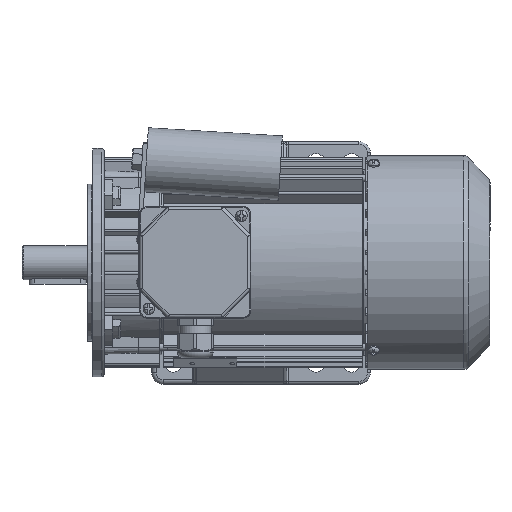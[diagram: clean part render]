
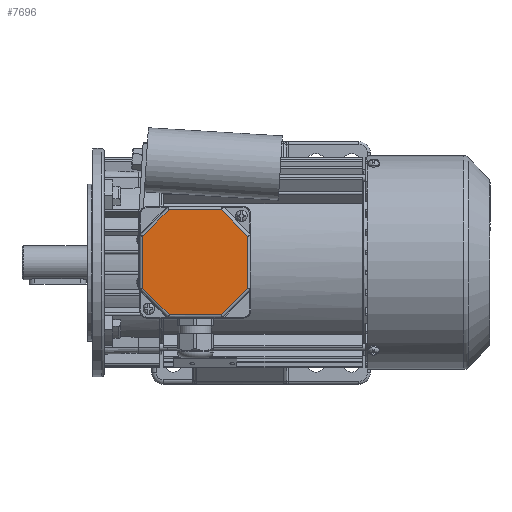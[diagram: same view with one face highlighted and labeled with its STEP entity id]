
A CAD part, top view. The second image highlights one B-rep face of the part: STEP entity #7696.
In plain terms, the highlighted planar face has unit normal (0, 0, 1).
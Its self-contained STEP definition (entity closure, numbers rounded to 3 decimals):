
#7696 = ADVANCED_FACE( '', ( #15568 ), #15569, .T. );
#15568 = FACE_OUTER_BOUND( '', #27691, .T. );
#15569 = PLANE( '', #27692 );
#27691 = EDGE_LOOP( '', ( #50764, #50765, #50766, #50767, #50768, #50769, #50770, #50771 ) );
#27692 = AXIS2_PLACEMENT_3D( '', #50772, #50773, #50774 );
#50764 = ORIENTED_EDGE( '', *, *, #78792, .T. );
#50765 = ORIENTED_EDGE( '', *, *, #74794, .T. );
#50766 = ORIENTED_EDGE( '', *, *, #76316, .T. );
#50767 = ORIENTED_EDGE( '', *, *, #75931, .T. );
#50768 = ORIENTED_EDGE( '', *, *, #71604, .T. );
#50769 = ORIENTED_EDGE( '', *, *, #78621, .T. );
#50770 = ORIENTED_EDGE( '', *, *, #74969, .T. );
#50771 = ORIENTED_EDGE( '', *, *, #77941, .T. );
#50772 = CARTESIAN_POINT( '', ( -39., 39., 12. ) );
#50773 = DIRECTION( '', ( 0., 0., 1. ) );
#50774 = DIRECTION( '', ( 1., 0., 0. ) );
#71604 = EDGE_CURVE( '', #88102, #88103, #88104, .F. );
#74794 = EDGE_CURVE( '', #93318, #93319, #93320, .T. );
#74969 = EDGE_CURVE( '', #93567, #93568, #93569, .F. );
#75931 = EDGE_CURVE( '', #91558, #88102, #94946, .T. );
#76316 = EDGE_CURVE( '', #93319, #91558, #95461, .F. );
#77941 = EDGE_CURVE( '', #93568, #97529, #97531, .T. );
#78621 = EDGE_CURVE( '', #88103, #93567, #98282, .T. );
#78792 = EDGE_CURVE( '', #97529, #93318, #98467, .F. );
#88102 = VERTEX_POINT( '', #105023 );
#88103 = VERTEX_POINT( '', #105024 );
#88104 = LINE( '', #105025, #105026 );
#91558 = VERTEX_POINT( '', #110529 );
#93318 = VERTEX_POINT( '', #113233 );
#93319 = VERTEX_POINT( '', #113234 );
#93320 = LINE( '', #113235, #113236 );
#93567 = VERTEX_POINT( '', #113643 );
#93568 = VERTEX_POINT( '', #113644 );
#93569 = LINE( '', #113645, #113646 );
#94946 = LINE( '', #115881, #115882 );
#95461 = LINE( '', #116769, #116770 );
#97529 = VERTEX_POINT( '', #119903 );
#97531 = LINE( '', #119905, #119906 );
#98282 = LINE( '', #120996, #120997 );
#98467 = LINE( '', #121250, #121251 );
#105023 = CARTESIAN_POINT( '', ( -36.825, 18.255, 12. ) );
#105024 = CARTESIAN_POINT( '', ( -36.825, -18.255, 12. ) );
#105025 = CARTESIAN_POINT( '', ( -36.825, -19.069, 12. ) );
#105026 = VECTOR( '', #127152, 1000. );
#110529 = CARTESIAN_POINT( '', ( -18.255, 36.825, 12. ) );
#113233 = CARTESIAN_POINT( '', ( 36.825, 18.255, 12. ) );
#113234 = CARTESIAN_POINT( '', ( 18.255, 36.825, 12. ) );
#113235 = CARTESIAN_POINT( '', ( 17.679, 37.401, 12. ) );
#113236 = VECTOR( '', #131619, 1000. );
#113643 = CARTESIAN_POINT( '', ( -18.255, -36.825, 12. ) );
#113644 = CARTESIAN_POINT( '', ( 18.255, -36.825, 12. ) );
#113645 = CARTESIAN_POINT( '', ( 19.069, -36.825, 12. ) );
#113646 = VECTOR( '', #131810, 1000. );
#115881 = CARTESIAN_POINT( '', ( -37.401, 17.679, 12. ) );
#115882 = VECTOR( '', #132957, 1000. );
#116769 = CARTESIAN_POINT( '', ( -19.069, 36.825, 12. ) );
#116770 = VECTOR( '', #133372, 1000. );
#119903 = CARTESIAN_POINT( '', ( 36.825, -18.255, 12. ) );
#119905 = CARTESIAN_POINT( '', ( 37.401, -17.679, 12. ) );
#119906 = VECTOR( '', #135333, 1000. );
#120996 = CARTESIAN_POINT( '', ( -17.679, -37.401, 12. ) );
#120997 = VECTOR( '', #135871, 1000. );
#121250 = CARTESIAN_POINT( '', ( 36.825, 19.069, 12. ) );
#121251 = VECTOR( '', #135986, 1000. );
#127152 = DIRECTION( '', ( 0., 1., 0. ) );
#131619 = DIRECTION( '', ( -0.707, 0.707, 0. ) );
#131810 = DIRECTION( '', ( -1., 0., 0. ) );
#132957 = DIRECTION( '', ( -0.707, -0.707, 0. ) );
#133372 = DIRECTION( '', ( 1., 0., 0. ) );
#135333 = DIRECTION( '', ( 0.707, 0.707, 0. ) );
#135871 = DIRECTION( '', ( 0.707, -0.707, 0. ) );
#135986 = DIRECTION( '', ( 0., -1., 0. ) );
